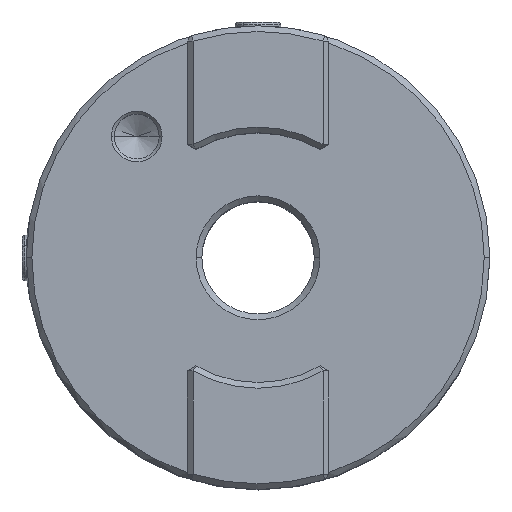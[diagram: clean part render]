
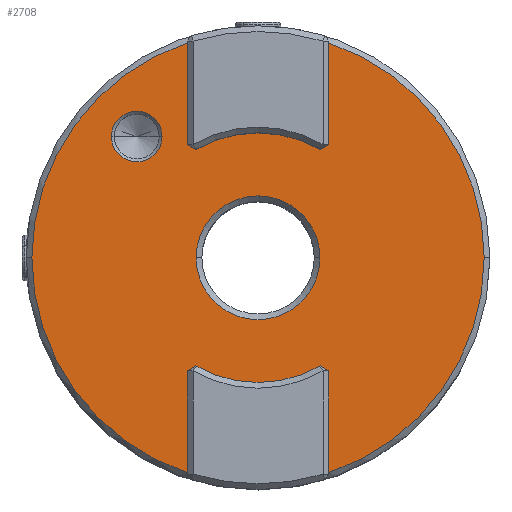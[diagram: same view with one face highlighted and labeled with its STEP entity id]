
A CAD part, top view. The second image highlights one B-rep face of the part: STEP entity #2708.
In plain terms, the highlighted planar face has unit normal (0, 0, -1).
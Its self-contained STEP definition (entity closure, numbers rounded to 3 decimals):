
#1700=CARTESIAN_POINT('',(4.383,-1.067,4.056));
#1701=DIRECTION('',(0.,0.,-1.));
#1702=DIRECTION('',(0.313,0.95,0.));
#1703=AXIS2_PLACEMENT_3D('',#1700,#1701,#1702);
#1705=DIRECTION('',(0.,1.,0.));
#1706=VECTOR('',#1705,9.042);
#1707=CARTESIAN_POINT('',(10.675,9.011,4.056));
#1708=LINE('',#1707,#1706);
#1709=DIRECTION('',(0.865,0.501,0.));
#1710=VECTOR('',#1709,0.879);
#1711=CARTESIAN_POINT('',(9.915,8.571,4.056));
#1712=LINE('',#1711,#1710);
#1713=CARTESIAN_POINT('',(4.383,-1.067,4.056));
#1714=DIRECTION('',(0.,0.,-1.));
#1715=DIRECTION('',(-0.498,0.867,0.));
#1716=AXIS2_PLACEMENT_3D('',#1713,#1714,#1715);
#1718=DIRECTION('',(0.865,-0.501,0.));
#1719=VECTOR('',#1718,0.879);
#1720=CARTESIAN_POINT('',(-1.91,9.011,4.056));
#1721=LINE('',#1720,#1719);
#1722=DIRECTION('',(0.,-1.,0.));
#1723=VECTOR('',#1722,9.042);
#1724=CARTESIAN_POINT('',(-1.91,18.054,4.056));
#1725=LINE('',#1724,#1723);
#1726=CARTESIAN_POINT('',(4.383,-1.067,4.056));
#1727=DIRECTION('',(0.,0.,-1.));
#1728=DIRECTION('',(-1.,0.,0.));
#1729=AXIS2_PLACEMENT_3D('',#1726,#1727,#1728);
#1731=CARTESIAN_POINT('',(4.383,-1.067,4.056));
#1732=DIRECTION('',(0.,0.,-1.));
#1733=DIRECTION('',(-0.313,-0.95,0.));
#1734=AXIS2_PLACEMENT_3D('',#1731,#1732,#1733);
#1736=DIRECTION('',(0.,-1.,0.));
#1737=VECTOR('',#1736,9.042);
#1738=CARTESIAN_POINT('',(-1.91,-11.145,
4.056));
#1739=LINE('',#1738,#1737);
#1740=DIRECTION('',(-0.865,-0.501,0.));
#1741=VECTOR('',#1740,0.879);
#1742=CARTESIAN_POINT('',(-1.149,-10.705,
4.056));
#1743=LINE('',#1742,#1741);
#1744=CARTESIAN_POINT('',(4.383,-1.067,4.056));
#1745=DIRECTION('',(0.,0.,-1.));
#1746=DIRECTION('',(0.498,-0.867,0.));
#1747=AXIS2_PLACEMENT_3D('',#1744,#1745,#1746);
#1749=DIRECTION('',(-0.865,0.501,0.));
#1750=VECTOR('',#1749,0.879);
#1751=CARTESIAN_POINT('',(10.675,-11.145,4.056));
#1752=LINE('',#1751,#1750);
#1753=DIRECTION('',(0.,1.,0.));
#1754=VECTOR('',#1753,9.042);
#1755=CARTESIAN_POINT('',(10.675,-20.188,4.056));
#1756=LINE('',#1755,#1754);
#1757=CARTESIAN_POINT('',(4.383,-1.067,4.056));
#1758=DIRECTION('',(0.,0.,-1.));
#1759=DIRECTION('',(1.,0.,0.));
#1760=AXIS2_PLACEMENT_3D('',#1757,#1758,#1759);
#1762=CARTESIAN_POINT('',(-6.412,9.728,4.056));
#1763=DIRECTION('',(0.,0.,1.));
#1764=DIRECTION('',(-1.,0.,0.));
#1765=AXIS2_PLACEMENT_3D('',#1762,#1763,#1764);
#1767=CARTESIAN_POINT('',(4.383,-1.067,4.056));
#1768=DIRECTION('',(0.,0.,1.));
#1769=DIRECTION('',(1.,0.,0.));
#1770=AXIS2_PLACEMENT_3D('',#1767,#1768,#1769);
#1772=CARTESIAN_POINT('',(4.383,-1.067,4.056));
#1773=DIRECTION('',(0.,0.,1.));
#1774=DIRECTION('',(-1.,0.,0.));
#1775=AXIS2_PLACEMENT_3D('',#1772,#1773,#1774);
#2396=CARTESIAN_POINT('',(-6.412,9.728,4.056));
#2397=DIRECTION('',(0.,0.,1.));
#2398=DIRECTION('',(1.,0.,0.));
#2399=AXIS2_PLACEMENT_3D('',#2396,#2397,#2398);
#2415=CARTESIAN_POINT('',(10.675,18.054,4.056));
#2416=CARTESIAN_POINT('',(24.512,-1.067,4.056));
#2417=VERTEX_POINT('',#2415);
#2418=VERTEX_POINT('',#2416);
#2419=CARTESIAN_POINT('',(10.675,9.011,4.056));
#2420=VERTEX_POINT('',#2419);
#2421=CARTESIAN_POINT('',(9.915,8.571,4.056));
#2422=VERTEX_POINT('',#2421);
#2423=CARTESIAN_POINT('',(-1.149,8.571,4.056));
#2424=VERTEX_POINT('',#2423);
#2425=CARTESIAN_POINT('',(-1.91,9.011,4.056));
#2426=VERTEX_POINT('',#2425);
#2427=CARTESIAN_POINT('',(-1.91,18.054,4.056));
#2428=VERTEX_POINT('',#2427);
#2429=CARTESIAN_POINT('',(-15.747,-1.067,
4.056));
#2430=VERTEX_POINT('',#2429);
#2431=CARTESIAN_POINT('',(-1.91,-20.188,
4.056));
#2432=VERTEX_POINT('',#2431);
#2433=CARTESIAN_POINT('',(-1.91,-11.145,
4.056));
#2434=VERTEX_POINT('',#2433);
#2435=CARTESIAN_POINT('',(-1.149,-10.705,
4.056));
#2436=VERTEX_POINT('',#2435);
#2437=CARTESIAN_POINT('',(9.915,-10.705,4.056));
#2438=VERTEX_POINT('',#2437);
#2439=CARTESIAN_POINT('',(10.675,-11.145,4.056));
#2440=VERTEX_POINT('',#2439);
#2441=CARTESIAN_POINT('',(10.675,-20.188,4.056));
#2442=VERTEX_POINT('',#2441);
#2443=CARTESIAN_POINT('',(-4.158,9.728,4.056));
#2444=CARTESIAN_POINT('',(-8.667,9.728,4.056));
#2445=VERTEX_POINT('',#2443);
#2446=VERTEX_POINT('',#2444);
#2447=CARTESIAN_POINT('',(9.891,-1.067,4.056));
#2448=CARTESIAN_POINT('',(-1.125,-1.067,
4.056));
#2449=VERTEX_POINT('',#2447);
#2450=VERTEX_POINT('',#2448);
#2662=CARTESIAN_POINT('',(4.383,-1.067,4.056));
#2663=DIRECTION('',(0.,0.,1.));
#2664=DIRECTION('',(1.,0.,0.));
#2665=AXIS2_PLACEMENT_3D('',#2662,#2663,#2664);
#2666=PLANE('',#2665);
#2668=ORIENTED_EDGE('',*,*,#2667,.F.);
#2670=ORIENTED_EDGE('',*,*,#2669,.F.);
#2672=ORIENTED_EDGE('',*,*,#2671,.F.);
#2674=ORIENTED_EDGE('',*,*,#2673,.F.);
#2676=ORIENTED_EDGE('',*,*,#2675,.F.);
#2678=ORIENTED_EDGE('',*,*,#2677,.F.);
#2680=ORIENTED_EDGE('',*,*,#2679,.F.);
#2682=ORIENTED_EDGE('',*,*,#2681,.F.);
#2684=ORIENTED_EDGE('',*,*,#2683,.F.);
#2686=ORIENTED_EDGE('',*,*,#2685,.F.);
#2688=ORIENTED_EDGE('',*,*,#2687,.F.);
#2690=ORIENTED_EDGE('',*,*,#2689,.F.);
#2692=ORIENTED_EDGE('',*,*,#2691,.F.);
#2694=ORIENTED_EDGE('',*,*,#2693,.F.);
#2695=EDGE_LOOP('',(#2668,#2670,#2672,#2674,#2676,#2678,#2680,#2682,#2684,#2686,
#2688,#2690,#2692,#2694));
#2696=FACE_OUTER_BOUND('',#2695,.F.);
#2698=ORIENTED_EDGE('',*,*,#2697,.F.);
#2699=ORIENTED_EDGE('',*,*,#2645,.F.);
#2700=EDGE_LOOP('',(#2698,#2699));
#2701=FACE_BOUND('',#2700,.F.);
#2703=ORIENTED_EDGE('',*,*,#2702,.F.);
#2705=ORIENTED_EDGE('',*,*,#2704,.F.);
#2706=EDGE_LOOP('',(#2703,#2705));
#2707=FACE_BOUND('',#2706,.F.);
#1704=CIRCLE('',#1703,20.13);
#1717=CIRCLE('',#1716,11.113);
#1730=CIRCLE('',#1729,20.13);
#1735=CIRCLE('',#1734,20.13);
#1748=CIRCLE('',#1747,11.113);
#1761=CIRCLE('',#1760,20.13);
#1766=CIRCLE('',#1765,2.254);
#1771=CIRCLE('',#1770,5.508);
#1776=CIRCLE('',#1775,5.508);
#2400=CIRCLE('',#2399,2.254);
#2645=EDGE_CURVE('',#2446,#2445,#1766,.T.);
#2667=EDGE_CURVE('',#2417,#2418,#1704,.T.);
#2669=EDGE_CURVE('',#2420,#2417,#1708,.T.);
#2671=EDGE_CURVE('',#2422,#2420,#1712,.T.);
#2673=EDGE_CURVE('',#2424,#2422,#1717,.T.);
#2675=EDGE_CURVE('',#2426,#2424,#1721,.T.);
#2677=EDGE_CURVE('',#2428,#2426,#1725,.T.);
#2679=EDGE_CURVE('',#2430,#2428,#1730,.T.);
#2681=EDGE_CURVE('',#2432,#2430,#1735,.T.);
#2683=EDGE_CURVE('',#2434,#2432,#1739,.T.);
#2685=EDGE_CURVE('',#2436,#2434,#1743,.T.);
#2687=EDGE_CURVE('',#2438,#2436,#1748,.T.);
#2689=EDGE_CURVE('',#2440,#2438,#1752,.T.);
#2691=EDGE_CURVE('',#2442,#2440,#1756,.T.);
#2693=EDGE_CURVE('',#2418,#2442,#1761,.T.);
#2697=EDGE_CURVE('',#2445,#2446,#2400,.T.);
#2702=EDGE_CURVE('',#2449,#2450,#1771,.T.);
#2704=EDGE_CURVE('',#2450,#2449,#1776,.T.);
#2708=ADVANCED_FACE('',(#2696,#2701,#2707),#2666,.F.);
